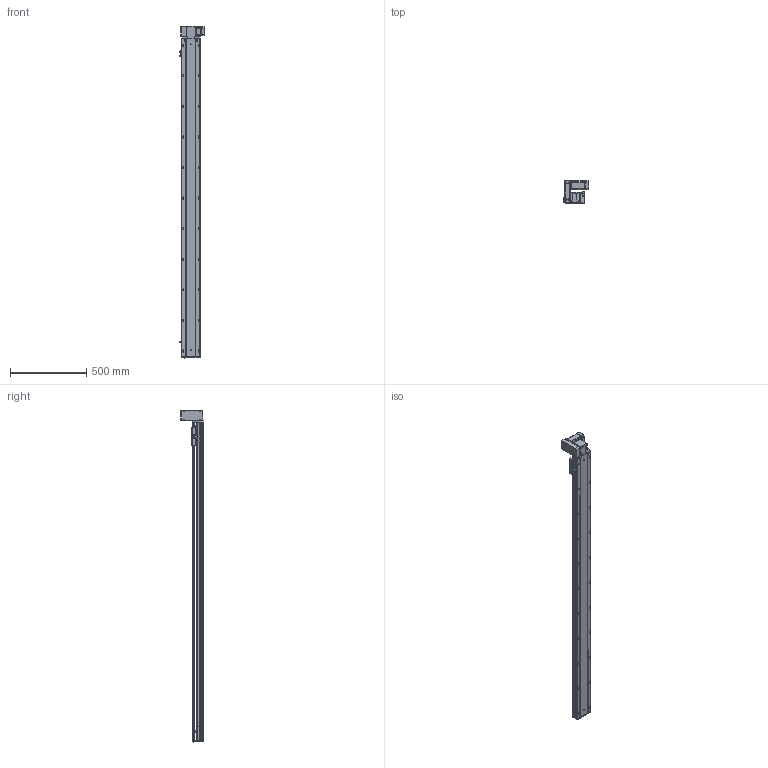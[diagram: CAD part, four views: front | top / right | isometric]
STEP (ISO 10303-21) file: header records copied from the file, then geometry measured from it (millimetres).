
FILE_DESCRIPTION (( 'STEP AP203' ), '1' );
FILE_NAME ('RY120-T-300-UL.SLDASM_1850.step', '2021-03-01T05:37:39', ( '盈信电脑' ), ( '东莞市道滘镇水果街19号' ), 'SwSTEP 2.0', 'SolidWorks 2012', '' );
FILE_SCHEMA (( 'CONFIG_CONTROL_DESIGN' ));
Products named in the file (18): RY120-T-300-UL.SLDASM_1850; RY120-T蹟翐M4; 滅袉蝶18-10; RY120-T萇儂欶; RY120-T翋肮祭謫裔啣; 侂狟400W侜督萇儂; RY120-T主同步轮轴承压盖; RY120-T萇儂假蚾啣; 15; RY120外置感应片(140共用）; RY120-T肮祭湍揤踡輸1; RY120-T翋肮祭盓傅釱; RY120-T肮祭湍揤踡輸2; RY120肮祭湍臏賑輸; RY120綴裔啣; 覜茼ん672; RY120-T-300-UL倰第菁釱_1850; RY120-T-300-UL倰第奻裔啣_1850
Assembly tree (23 placements, depth 3):
  RY120-T-300-UL.SLDASM_1850
    RY120-T-300-UL倰第菁釱_1850
    RY120-T-300-UL倰第奻裔啣_1850
    RY120肮祭湍臏賑輸
    RY120綴裔啣
    覜茼ん672  x3
    RY120外置感应片(140共用）
    RY120-T肮祭湍揤踡輸1
    RY120-T肮祭湍揤踡輸2
    RY120-T翋肮祭盓傅釱
    RY120-T萇儂假蚾啣
    侂狟400W侜督萇儂
      15
    RY120-T主同步轮轴承压盖
    滅袉蝶18-10  x2
    RY120-T萇儂欶
    RY120-T蹟翐M4  x4
    RY120-T翋肮祭謫裔啣
Bounding box: 164.2 x 146 x 2171 mm (x, y, z)
Volume: 5477178.6 mm3; surface area: 2088204.6 mm2
Topology: 23 solids, 23 shells, 3100 faces, 8492 edges, 5418 vertices
Faces by surface type: plane 1456, cylinder 1240, cone 315, bspline 89
Entity records: 100038 total; most frequent: CARTESIAN_POINT 26198, ORIENTED_EDGE 15296, DIRECTION 14398, EDGE_CURVE 7648, VERTEX_POINT 5005, AXIS2_PLACEMENT_3D 4889, LINE 4620, VECTOR 4620
